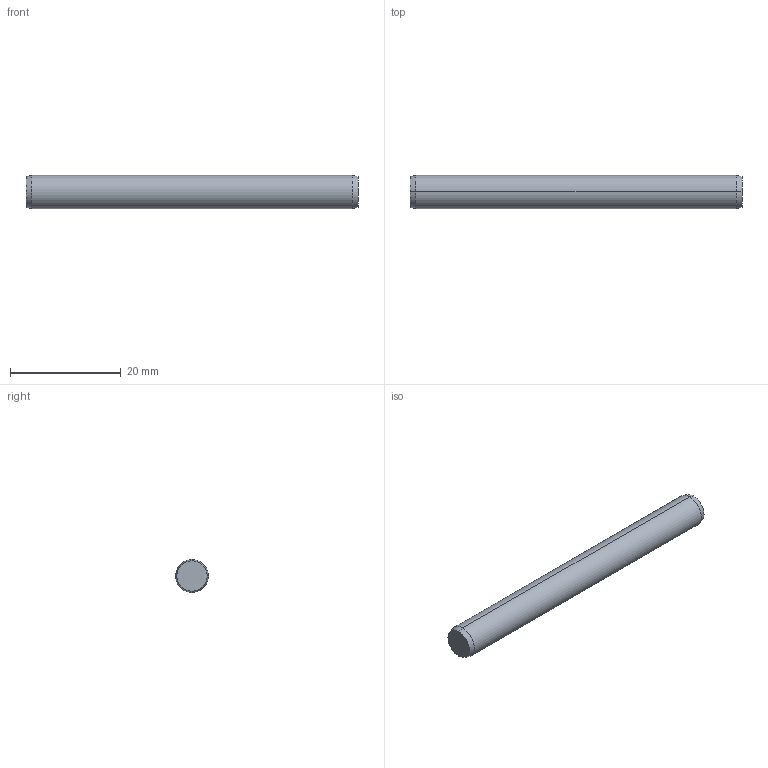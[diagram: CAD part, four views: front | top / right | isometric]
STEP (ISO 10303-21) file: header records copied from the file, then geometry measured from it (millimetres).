
FILE_DESCRIPTION (( 'STEP AP203' ), '1' );
FILE_NAME ('P1206.060-060.step', '2017-06-14T08:23:40', ( 'User' ), ( '' ), 'SwSTEP 2.0', 'SolidWorks 2009', '' );
FILE_SCHEMA (( 'CONFIG_CONTROL_DESIGN' ));
Length unit declared in the file: millimetre
Products named in the file (1): P1206.060-060
Bounding box: 60 x 6 x 6 mm (x, y, z)
Volume: 1691.6 mm3; surface area: 1177.5 mm2
Topology: 1 solids, 1 shells, 8 faces, 14 edges, 8 vertices
Faces by surface type: cone 4, cylinder 2, plane 2
Entity records: 271 total; most frequent: DIRECTION 40, CARTESIAN_POINT 31, ORIENTED_EDGE 28, AXIS2_PLACEMENT_3D 17, EDGE_CURVE 14, PERSON_AND_ORGANIZATION 8, FACE_OUTER_BOUND 8, CIRCLE 8
